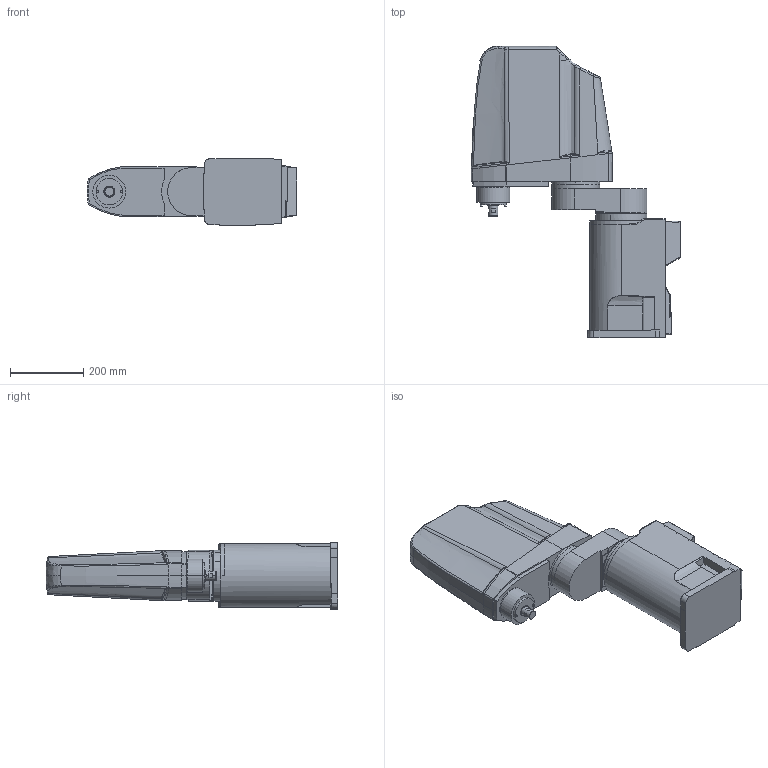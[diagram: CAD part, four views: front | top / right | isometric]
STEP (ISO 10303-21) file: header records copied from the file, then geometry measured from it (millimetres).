
FILE_DESCRIPTION((''),'2;1');
FILE_NAME('RH-6FH3520M-3D-ASSY_ASM_ASM','2012-04-25T',('AL99964'),(''),'PRO/ENGINEER BY PARAMETRIC TECHNOLOGY CORPORATION, 2010160','PRO/ENGINEER BY PARAMETRIC TECHNOLOGY CORPORATION, 2010160','');
FILE_SCHEMA(('CONFIG_CONTROL_DESIGN'));
Length unit declared in the file: millimetre
Products named in the file (6): RH-3-6FH_BASE_24; RH-3-6FH_NO1ARM_35_8; RH-6FH_NO2ARM_4; RH-6FH_SHAFT_3; RH-6FH_JABARA_MIST_200; RH-6FH3520M-3D-ASSY_ASM_ASM
Assembly tree (5 placements, depth 2):
  RH-6FH3520M-3D-ASSY_ASM_ASM
    RH-3-6FH_BASE_24
    RH-3-6FH_NO1ARM_35_8
    RH-6FH_NO2ARM_4
    RH-6FH_SHAFT_3
    RH-6FH_JABARA_MIST_200
Bounding box: 572 x 798 x 182 mm (x, y, z)
Volume: 27879943.7 mm3; surface area: 1021405.9 mm2
Topology: 5 solids, 5 shells, 507 faces, 1233 edges, 754 vertices
Faces by surface type: cylinder 169, bspline 145, plane 135, torus 24, cone 13, sphere 13, extrusion 6, revolution 2
Entity records: 29733 total; most frequent: CARTESIAN_POINT 18896, ORIENTED_EDGE 2446, DIRECTION 1922, EDGE_CURVE 1223, VERTEX_POINT 754, AXIS2_PLACEMENT_3D 747, EDGE_LOOP 539, FACE_OUTER_BOUND 507
